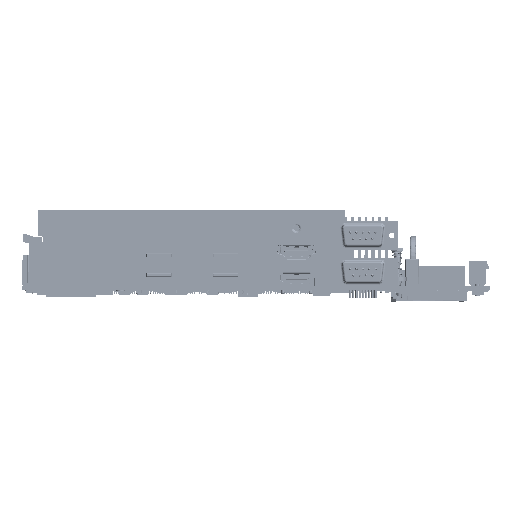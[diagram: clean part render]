
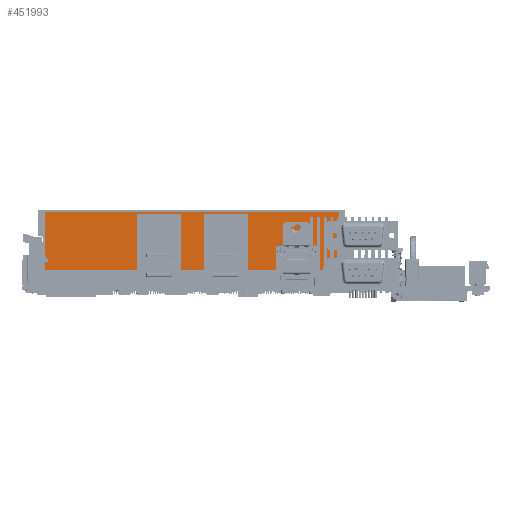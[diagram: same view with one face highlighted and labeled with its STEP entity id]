
A CAD part, front view. The second image highlights one B-rep face of the part: STEP entity #451993.
In plain terms, the highlighted planar face has unit normal (0, -1, 0).
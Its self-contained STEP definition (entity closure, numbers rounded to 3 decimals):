
#119398 = DIRECTION ( 'NONE',  ( 1., 0., 0. ) ) ;
#120464 = CARTESIAN_POINT ( 'NONE',  ( -42.209, 78.237, 62.887 ) ) ;
#120598 = VECTOR ( 'NONE', #119398, 1000. ) ;
#120628 = CARTESIAN_POINT ( 'NONE',  ( -42.209, 78.237, 62.887 ) ) ;
#120632 = LINE ( 'NONE', #120628, #120598 ) ;
#122499 = CARTESIAN_POINT ( 'NONE',  ( 85.541, 78.237, 88.387 ) ) ;
#122830 = CARTESIAN_POINT ( 'NONE',  ( -42.209, 78.237, 88.387 ) ) ;
#122891 = LINE ( 'NONE', #123142, #123134 ) ;
#123132 = DIRECTION ( 'NONE',  ( -1., 0., 0. ) ) ;
#123134 = VECTOR ( 'NONE', #123132, 1000. ) ;
#123142 = CARTESIAN_POINT ( 'NONE',  ( -42.209, 78.237, 88.387 ) ) ;
#123211 = CARTESIAN_POINT ( 'NONE',  ( 85.541, 78.237, 62.887 ) ) ;
#123532 = DIRECTION ( 'NONE',  ( 0., 0., 1. ) ) ;
#123534 = VECTOR ( 'NONE', #123532, 1000. ) ;
#123537 = CARTESIAN_POINT ( 'NONE',  ( 85.541, 78.237, 88.387 ) ) ;
#123538 = LINE ( 'NONE', #123537, #123534 ) ;
#123587 = DIRECTION ( 'NONE',  ( 0., -1., 0. ) ) ;
#123596 = FACE_OUTER_BOUND ( 'NONE', #451903, .T. ) ;
#123648 = CARTESIAN_POINT ( 'NONE',  ( -42.209, 78.237, 62.887 ) ) ;
#123675 = AXIS2_PLACEMENT_3D ( 'NONE', #123648, #123587, #123847 ) ;
#123688 = PLANE ( 'NONE',  #123675 ) ;
#123791 = DIRECTION ( 'NONE',  ( 0., 0., -1. ) ) ;
#123794 = VECTOR ( 'NONE', #123791, 1000. ) ;
#123796 = CARTESIAN_POINT ( 'NONE',  ( -42.209, 78.237, 88.387 ) ) ;
#123805 = LINE ( 'NONE', #123796, #123794 ) ;
#123847 = DIRECTION ( 'NONE',  ( 1., 0., 0. ) ) ;
#450601 = VERTEX_POINT ( 'NONE', #120464 ) ;
#451491 = VERTEX_POINT ( 'NONE', #122499 ) ;
#451624 = VERTEX_POINT ( 'NONE', #122830 ) ;
#451757 = EDGE_CURVE ( 'NONE', #451491, #451624, #122891, .T. ) ;
#451855 = VERTEX_POINT ( 'NONE', #123211 ) ;
#451903 = EDGE_LOOP ( 'NONE', ( #452005, #452210, #452043, #452070 ) ) ;
#451910 = EDGE_CURVE ( 'NONE', #451855, #451491, #123538, .T. ) ;
#451993 = ADVANCED_FACE ( 'NONE', ( #123596 ), #123688, .T. ) ;
#452005 = ORIENTED_EDGE ( 'NONE', *, *, #452012, .T. ) ;
#452012 = EDGE_CURVE ( 'NONE', #451624, #450601, #123805, .T. ) ;
#452043 = ORIENTED_EDGE ( 'NONE', *, *, #451910, .T. ) ;
#452070 = ORIENTED_EDGE ( 'NONE', *, *, #451757, .T. ) ;
#452210 = ORIENTED_EDGE ( 'NONE', *, *, #452235, .T. ) ;
#452235 = EDGE_CURVE ( 'NONE', #450601, #451855, #120632, .T. ) ;
